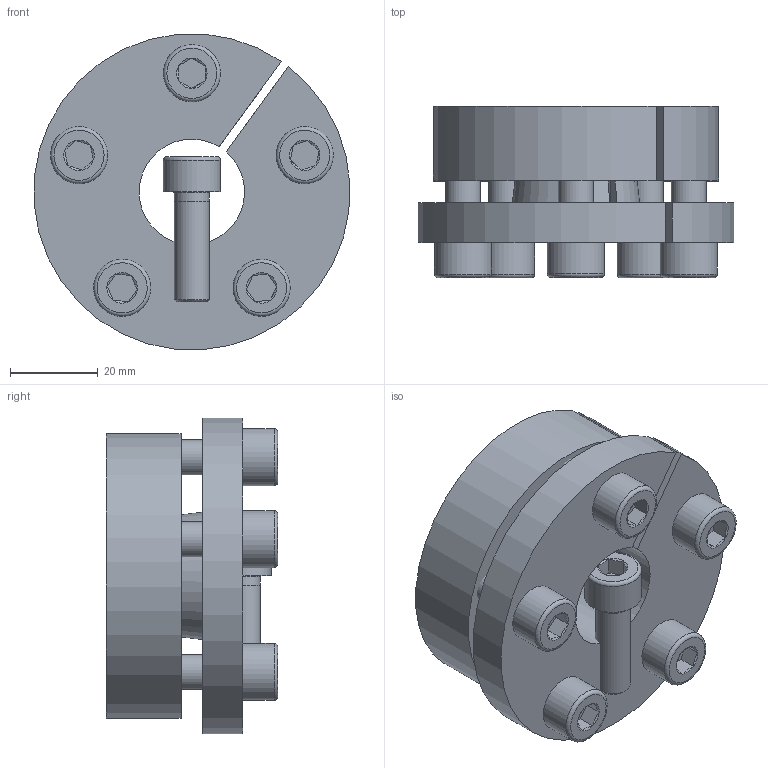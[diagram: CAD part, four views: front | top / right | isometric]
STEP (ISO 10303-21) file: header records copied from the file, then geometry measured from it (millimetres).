
FILE_DESCRIPTION( ( 'Unknown' ), '1' );
FILE_NAME( 'C:/Dokumente und Einstellungen/Sven/Desktop/15/KBS 15 - 24 x 65.stp', 'Unknown', ( 'Unknown' ), ( 'Unknown' ), 'XStep 1.0', 'Unknown', ' ' );
FILE_SCHEMA( ( 'automotive_design' ) );
Length unit declared in the file: millimetre
Products named in the file (3): Assem1; ISO EN DIN 4762 M8x25_6; KBS 15 - 24 x 65_0
Bounding box: 71.85 x 39 x 71.81 mm (x, y, z)
Volume: 163515.7 mm3; surface area: 55504.4 mm2
Topology: 8 solids, 8 shells, 194 faces, 404 edges, 250 vertices
Faces by surface type: plane 86, cylinder 50, cone 46, torus 12
Full cylindrical faces by diameter (mm): 6.647 x10, 7 x6, 8 x12, 9 x10, 13 x6
Entity records: 1524 total; most frequent: CARTESIAN_POINT 256, DIRECTION 230, ORIENTED_EDGE 170, AXIS2_PLACEMENT_3D 101, EDGE_LOOP 88, EDGE_CURVE 85, FACE_OUTER_BOUND 63, VERTEX_POINT 63
